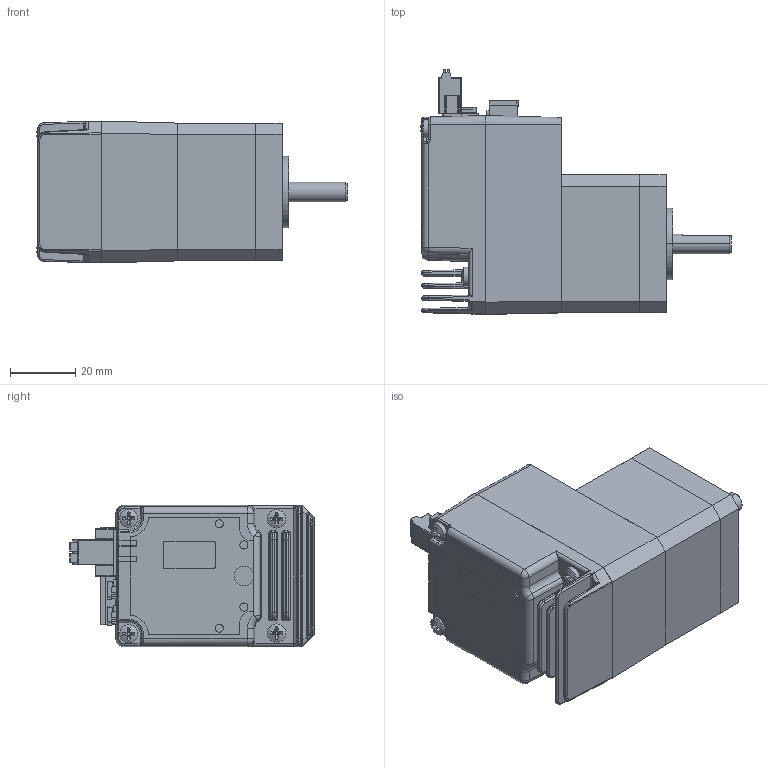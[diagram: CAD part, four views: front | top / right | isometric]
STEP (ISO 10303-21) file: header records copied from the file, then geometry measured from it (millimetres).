
FILE_DESCRIPTION (( 'STEP AP214' ), '1' );
FILE_NAME ('TSM17-2RGµç»ú.STEP', '2021-07-15T05:47:22', ( 'Windows User' ), ( 'P R C' ), 'SwSTEP 2.0', 'SolidWorks 2015', '' );
FILE_SCHEMA (( 'AUTOMOTIVE_DESIGN' ));
Length unit declared in the file: millimetre
Products named in the file (17): 14; 8; 1; 6; 4; 2; 7; 9; 12; 3; 5; 13; 15; 10; 11; TSM17-2RG萇儂; 16
Assembly tree (20 placements, depth 3):
  TSM17-2RG萇儂
    11
      13
      12
      15
      14
    10
    5
    3
    9
    8
    2  x2
    6  x2
    7  x2
    16  x2
    4
    1
Bounding box: 95.25 x 75.1 x 43.53 mm (x, y, z)
Volume: 98630.6 mm3; surface area: 65428.1 mm2
Topology: 19 solids, 29 shells, 2814 faces, 7281 edges, 4677 vertices
Faces by surface type: plane 1881, cylinder 591, bspline 183, torus 88, cone 52, sphere 19
Entity records: 103184 total; most frequent: CARTESIAN_POINT 19269, ORIENTED_EDGE 13596, DIRECTION 12816, EDGE_CURVE 6800, LINE 5094, VECTOR 5094, VERTEX_POINT 4391, AXIS2_PLACEMENT_3D 3861
